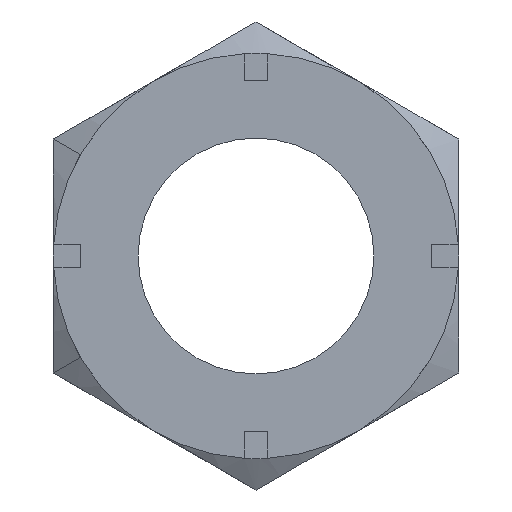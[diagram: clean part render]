
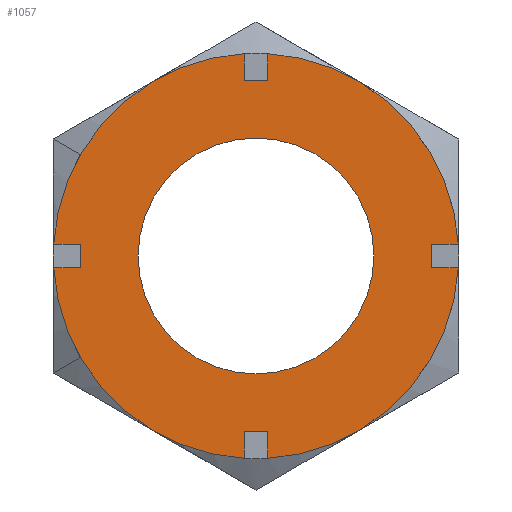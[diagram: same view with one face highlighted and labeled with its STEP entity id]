
A CAD part, left-side view. The second image highlights one B-rep face of the part: STEP entity #1057.
In plain terms, the highlighted planar face has unit normal (-1, 0, 0).
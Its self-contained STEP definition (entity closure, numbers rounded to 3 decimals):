
#130=CARTESIAN_POINT('',(-38.0,0.,16.0));
#131=VERTEX_POINT('',#130);
#140=CARTESIAN_POINT('',(-38.0,16.0,0.0));
#141=VERTEX_POINT('',#140);
#142=CARTESIAN_POINT('',(-38.0,0.0,0.0));
#143=DIRECTION('',(1.0,0.0,0.0));
#144=DIRECTION('',(0.0,1.0,0.0));
#145=AXIS2_PLACEMENT_3D('',#142,#143,#144);
#146=CIRCLE('',#145,16.0);
#147=EDGE_CURVE('',#141,#131,#146,.T.);
#341=CARTESIAN_POINT('',(-38.0,0.,-16.0));
#342=VERTEX_POINT('',#341);
#351=CARTESIAN_POINT('',(-38.0,-16.0,0.));
#352=VERTEX_POINT('',#351);
#353=CARTESIAN_POINT('',(-38.0,0.0,0.0));
#354=DIRECTION('',(1.0,0.0,0.0));
#355=DIRECTION('',(0.0,1.0,0.0));
#356=AXIS2_PLACEMENT_3D('',#353,#354,#355);
#357=CIRCLE('',#356,16.0);
#358=EDGE_CURVE('',#352,#342,#357,.T.);
#392=CARTESIAN_POINT('',(-38.0,0.0,0.0));
#393=DIRECTION('',(1.0,0.0,0.0));
#394=DIRECTION('',(0.0,1.0,0.0));
#395=AXIS2_PLACEMENT_3D('',#392,#393,#394);
#396=CIRCLE('',#395,16.0);
#397=EDGE_CURVE('',#342,#141,#396,.T.);
#407=CARTESIAN_POINT('',(-38.0,27.453,1.6));
#408=VERTEX_POINT('',#407);
#423=CARTESIAN_POINT('',(-38.0,23.8,1.6));
#424=VERTEX_POINT('',#423);
#431=CARTESIAN_POINT('',(-38.0,27.453,1.6));
#432=DIRECTION('',(0.0,-1.0,0.0));
#433=VECTOR('',#432,3.653);
#434=LINE('',#431,#433);
#435=EDGE_CURVE('',#408,#424,#434,.T.);
#445=CARTESIAN_POINT('',(-38.0,27.453,-1.6));
#446=VERTEX_POINT('',#445);
#455=CARTESIAN_POINT('',(-38.0,23.8,-1.6));
#456=VERTEX_POINT('',#455);
#457=CARTESIAN_POINT('',(-38.0,23.8,-1.6));
#458=DIRECTION('',(0.0,1.0,0.0));
#459=VECTOR('',#458,3.653);
#460=LINE('',#457,#459);
#461=EDGE_CURVE('',#456,#446,#460,.T.);
#492=CARTESIAN_POINT('',(-38.0,23.8,1.6));
#493=DIRECTION('',(0.0,0.0,-1.0));
#494=VECTOR('',#493,3.2);
#495=LINE('',#492,#494);
#496=EDGE_CURVE('',#424,#456,#495,.T.);
#528=CARTESIAN_POINT('',(-38.0,-1.6,27.453));
#529=VERTEX_POINT('',#528);
#544=CARTESIAN_POINT('',(-38.0,-1.6,23.8));
#545=VERTEX_POINT('',#544);
#552=CARTESIAN_POINT('',(-38.0,-1.6,27.453));
#553=DIRECTION('',(0.0,0.0,-1.0));
#554=VECTOR('',#553,3.653);
#555=LINE('',#552,#554);
#556=EDGE_CURVE('',#529,#545,#555,.T.);
#566=CARTESIAN_POINT('',(-38.0,1.6,27.453));
#567=VERTEX_POINT('',#566);
#576=CARTESIAN_POINT('',(-38.0,1.6,23.8));
#577=VERTEX_POINT('',#576);
#578=CARTESIAN_POINT('',(-38.0,1.6,23.8));
#579=DIRECTION('',(0.0,0.0,1.0));
#580=VECTOR('',#579,3.653);
#581=LINE('',#578,#580);
#582=EDGE_CURVE('',#577,#567,#581,.T.);
#613=CARTESIAN_POINT('',(-38.0,-1.6,23.8));
#614=DIRECTION('',(0.0,1.0,0.0));
#615=VECTOR('',#614,3.2);
#616=LINE('',#613,#615);
#617=EDGE_CURVE('',#545,#577,#616,.T.);
#648=CARTESIAN_POINT('',(-38.0,-27.453,-1.6));
#649=VERTEX_POINT('',#648);
#664=CARTESIAN_POINT('',(-38.0,-23.8,-1.6));
#665=VERTEX_POINT('',#664);
#672=CARTESIAN_POINT('',(-38.0,-27.453,-1.6));
#673=DIRECTION('',(0.0,1.0,0.0));
#674=VECTOR('',#673,3.653);
#675=LINE('',#672,#674);
#676=EDGE_CURVE('',#649,#665,#675,.T.);
#686=CARTESIAN_POINT('',(-38.0,-27.453,1.6));
#687=VERTEX_POINT('',#686);
#696=CARTESIAN_POINT('',(-38.0,-23.8,1.6));
#697=VERTEX_POINT('',#696);
#698=CARTESIAN_POINT('',(-38.0,-23.8,1.6));
#699=DIRECTION('',(0.0,-1.0,0.0));
#700=VECTOR('',#699,3.653);
#701=LINE('',#698,#700);
#702=EDGE_CURVE('',#697,#687,#701,.T.);
#733=CARTESIAN_POINT('',(-38.0,-23.8,-1.6));
#734=DIRECTION('',(0.0,0.0,1.0));
#735=VECTOR('',#734,3.2);
#736=LINE('',#733,#735);
#737=EDGE_CURVE('',#665,#697,#736,.T.);
#777=CARTESIAN_POINT('',(-38.0,1.6,-27.453));
#778=VERTEX_POINT('',#777);
#793=CARTESIAN_POINT('',(-38.0,1.6,-23.8));
#794=VERTEX_POINT('',#793);
#801=CARTESIAN_POINT('',(-38.0,1.6,-27.453));
#802=DIRECTION('',(0.0,0.0,1.0));
#803=VECTOR('',#802,3.653);
#804=LINE('',#801,#803);
#805=EDGE_CURVE('',#778,#794,#804,.T.);
#815=CARTESIAN_POINT('',(-38.0,-1.6,-27.453));
#816=VERTEX_POINT('',#815);
#825=CARTESIAN_POINT('',(-38.0,-1.6,-23.8));
#826=VERTEX_POINT('',#825);
#827=CARTESIAN_POINT('',(-38.0,-1.6,-23.8));
#828=DIRECTION('',(0.0,0.0,-1.0));
#829=VECTOR('',#828,3.653);
#830=LINE('',#827,#829);
#831=EDGE_CURVE('',#826,#816,#830,.T.);
#862=CARTESIAN_POINT('',(-38.0,1.6,-23.8));
#863=DIRECTION('',(0.0,-1.0,0.0));
#864=VECTOR('',#863,3.2);
#865=LINE('',#862,#864);
#866=EDGE_CURVE('',#794,#826,#865,.T.);
#896=CARTESIAN_POINT('',(-38.0,0.0,0.0));
#897=DIRECTION('',(1.0,0.0,0.0));
#898=DIRECTION('',(0.0,1.0,0.0));
#899=AXIS2_PLACEMENT_3D('',#896,#897,#898);
#900=CIRCLE('',#899,27.5);
#901=EDGE_CURVE('',#649,#816,#900,.T.);
#929=CARTESIAN_POINT('',(-38.0,0.0,0.0));
#930=DIRECTION('',(1.0,0.0,0.0));
#931=DIRECTION('',(0.0,1.0,0.0));
#932=AXIS2_PLACEMENT_3D('',#929,#930,#931);
#933=CIRCLE('',#932,27.5);
#934=EDGE_CURVE('',#529,#687,#933,.T.);
#978=CARTESIAN_POINT('',(-38.0,0.0,0.0));
#979=DIRECTION('',(1.0,0.0,0.0));
#980=DIRECTION('',(0.0,1.0,0.0));
#981=AXIS2_PLACEMENT_3D('',#978,#979,#980);
#982=CIRCLE('',#981,27.5);
#983=EDGE_CURVE('',#778,#446,#982,.T.);
#994=CARTESIAN_POINT('',(-38.0,0.0,0.0));
#995=DIRECTION('',(1.0,0.0,0.0));
#996=DIRECTION('',(0.0,1.0,0.0));
#997=AXIS2_PLACEMENT_3D('',#994,#995,#996);
#998=CIRCLE('',#997,27.5);
#999=EDGE_CURVE('',#408,#567,#998,.T.);
#1022=CARTESIAN_POINT('',(-38.0,-30.199,-30.199));
#1023=DIRECTION('',(-1.0,0.0,0.0));
#1024=DIRECTION('',(0.0,0.0,1.0));
#1025=AXIS2_PLACEMENT_3D('',#1022,#1023,#1024);
#1026=PLANE('',#1025);
#1027=ORIENTED_EDGE('',*,*,#435,.T.);
#1028=ORIENTED_EDGE('',*,*,#496,.T.);
#1029=ORIENTED_EDGE('',*,*,#461,.T.);
#1030=ORIENTED_EDGE('',*,*,#983,.F.);
#1031=ORIENTED_EDGE('',*,*,#805,.T.);
#1032=ORIENTED_EDGE('',*,*,#866,.T.);
#1033=ORIENTED_EDGE('',*,*,#831,.T.);
#1034=ORIENTED_EDGE('',*,*,#901,.F.);
#1035=ORIENTED_EDGE('',*,*,#676,.T.);
#1036=ORIENTED_EDGE('',*,*,#737,.T.);
#1037=ORIENTED_EDGE('',*,*,#702,.T.);
#1038=ORIENTED_EDGE('',*,*,#934,.F.);
#1039=ORIENTED_EDGE('',*,*,#556,.T.);
#1040=ORIENTED_EDGE('',*,*,#617,.T.);
#1041=ORIENTED_EDGE('',*,*,#582,.T.);
#1042=ORIENTED_EDGE('',*,*,#999,.F.);
#1043=EDGE_LOOP('',(#1027,#1028,#1029,#1030,#1031,#1032,#1033,#1034,#1035,#1036,#1037,#1038,#1039,#1040,#1041,#1042));
#1044=FACE_OUTER_BOUND('',#1043,.T.);
#1045=ORIENTED_EDGE('',*,*,#147,.T.);
#1046=CARTESIAN_POINT('',(-38.0,0.0,0.0));
#1047=DIRECTION('',(1.0,0.0,0.0));
#1048=DIRECTION('',(0.0,1.0,0.0));
#1049=AXIS2_PLACEMENT_3D('',#1046,#1047,#1048);
#1050=CIRCLE('',#1049,16.0);
#1051=EDGE_CURVE('',#131,#352,#1050,.T.);
#1052=ORIENTED_EDGE('',*,*,#1051,.T.);
#1053=ORIENTED_EDGE('',*,*,#358,.T.);
#1054=ORIENTED_EDGE('',*,*,#397,.T.);
#1055=EDGE_LOOP('',(#1045,#1052,#1053,#1054));
#1056=FACE_BOUND('',#1055,.T.);
#1057=ADVANCED_FACE('',(#1044,#1056),#1026,.T.);
